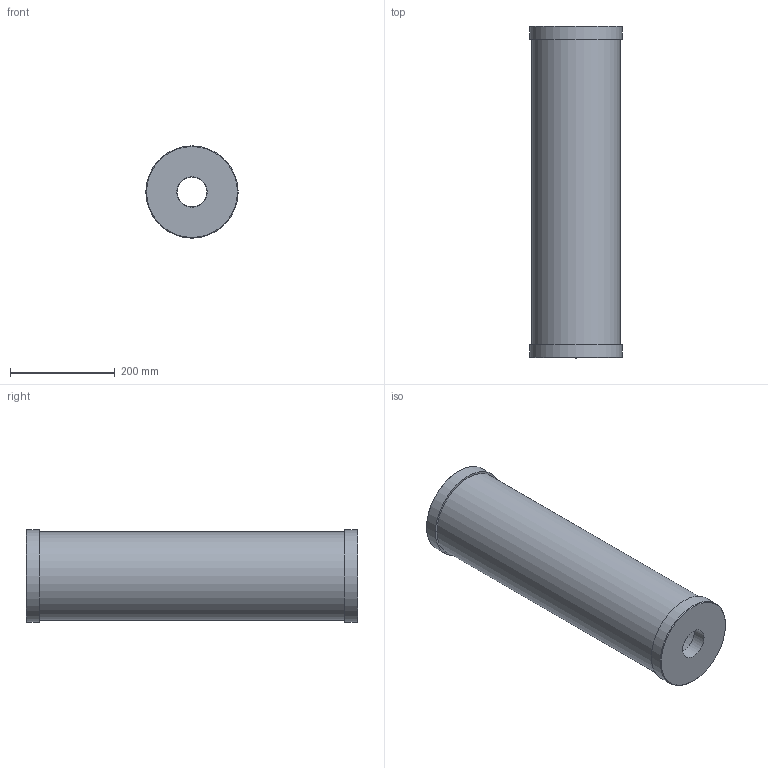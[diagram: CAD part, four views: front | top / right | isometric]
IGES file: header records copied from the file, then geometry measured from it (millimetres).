
Start section: SolidWorks IGES file using analytic representation for surfaces
Global section: file name: F:\Griffco-Valve\Griffco_current-projects\GV_web-files_2015\CAL cylinders\CC10000_P_BSPT.IGS; native system: SolidWorks 2014; preprocessor: SolidWorks 2014; author: Dan; date: 160321.043252; units: inch
Bounding box: 176.53 x 635 x 176.53 mm (x, y, z)
Surface area: 697740.4 mm2 (no closed solid volume)
Topology: 0 solids, 0 shells, 14 faces, 37 edges, 29 vertices
Faces by surface type: revolution 8, bspline 6
